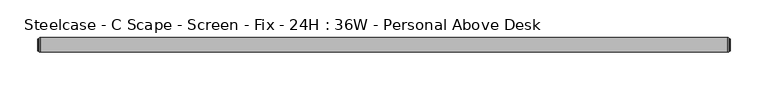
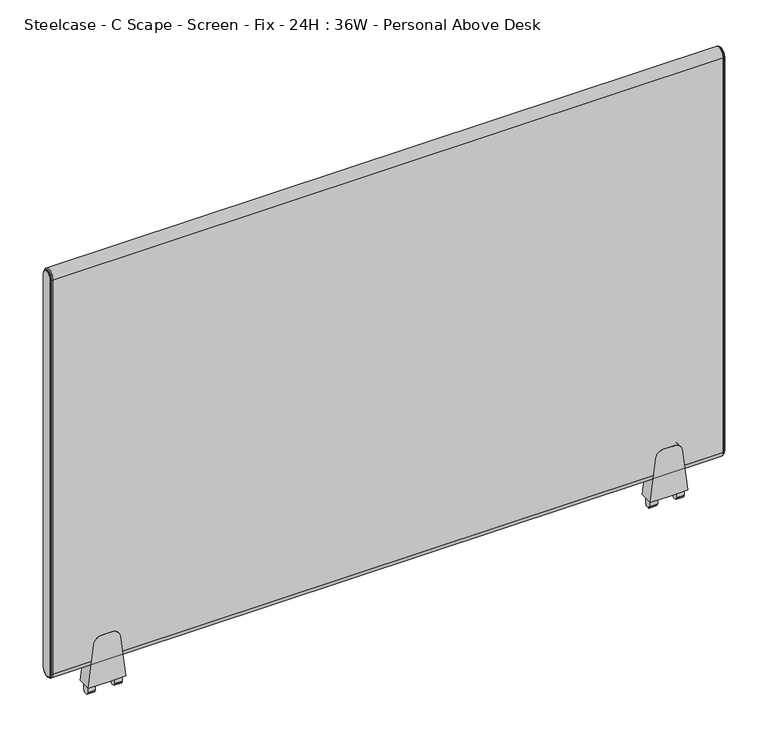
"""IFC4 building model written with IfcOpenShell, lengths in millimetres: furniture geometry, Steelcase - C Scape - Screen - Fix - 24H : 36W - Personal Above Desk."""

from ifc_helpers import new_model, si_unit, point, frame, frame_2d, origin, place, context, project, spatial, polyline, circle_curve, ellipse_curve, trimmed, segment, composite_curve, outline, extrude, source, transform, mapped, element, save
from ifc_brep_helpers import plane_surface, cylinder_surface, revolved_surface, advanced_brep


def steelcase_c_scape_screen_fix_24h_36w_personal_above_desk_8a4edda7(model_context):
    return source(origin(), model_context, "Body", "SolidModel", [
        extrude(outline(composite_curve([segment(polyline([(723.811112, 101.4730434), (784.1362421, 94.0661495)]), True, "CONTINUOUS"), segment(trimmed(circle_curve(frame_2d((782.8143718, 83.300233)), 10.8467645), [point((784.1362421, 94.0661495))], [point((793.6611362, 83.300233))], False, "CARTESIAN"), True, "CONTINUOUS"), segment(polyline([(793.6611362, 83.300233), (793.6611362, 76.2001674), (793.6611362, 69.1001018)]), True, "CONTINUOUS"), segment(trimmed(circle_curve(frame_2d((782.8143718, 69.1001018)), 10.8467645), [point((793.6611362, 69.1001018))], [point((784.1362421, 58.3341853))], False, "CARTESIAN"), True, "CONTINUOUS"), segment(polyline([(784.1362421, 58.3341853), (723.811112, 50.9272915), (723.811112, 76.2001674), (723.811112, 101.4730434)]), True, "CONTINUOUS")], self_intersect=False)), frame((0.0, -9.525, 0.0), z_axis=(0.0, 1.0, 0.0), x_axis=(0.0, 0.0, 1.0)), (0.0, 0.0, 1.0), 19.05),
        extrude(outline(polyline([(4.5465975, 723.811112), (4.5465975, 713.9051033), (4.0139265, 713.0186748), (2.9972008, 713.0186748), (2.9972008, 710.7834188), (0.0, 710.692), (-2.9972008, 710.7834188), (-2.9972008, 713.0186748), (-4.0139265, 713.0186748), (-4.5465975, 713.9051033), (-4.5465975, 723.811112), (0.0, 723.811112), (4.5465975, 723.811112)])), frame((88.9267162, 0.0, 0.0), z_axis=(1.0, 0.0, 0.0), x_axis=(0.0, 1.0, 0.0)), (0.0, 0.0, 1.0), 10.7813187),
        extrude(outline(polyline([(4.5465975, 723.811112), (4.5465975, 713.9051033), (4.0139265, 713.0186748), (2.9972008, 713.0186748), (2.9972008, 710.7834188), (0.0, 710.692), (-2.9972008, 710.7834188), (-2.9972008, 713.0186748), (-4.0139265, 713.0186748), (-4.5465975, 713.9051033), (-4.5465975, 723.811112), (0.0, 723.811112), (4.5465975, 723.811112)])), frame((52.6923, 0.0, 0.0), z_axis=(1.0, 0.0, 0.0), x_axis=(0.0, 1.0, 0.0)), (0.0, 0.0, 1.0), 10.7813187),
        extrude(outline(composite_curve([segment(polyline([(723.811112, 862.7107132), (784.1362421, 855.3038193)]), True, "CONTINUOUS"), segment(trimmed(circle_curve(frame_2d((782.8143718, 844.5379028)), 10.8467645), [point((784.1362421, 855.3038193))], [point((793.6611362, 844.5379028))], False, "CARTESIAN"), True, "CONTINUOUS"), segment(polyline([(793.6611362, 844.5379028), (793.6611362, 837.4378372), (793.6611362, 830.3377716)]), True, "CONTINUOUS"), segment(trimmed(circle_curve(frame_2d((782.8143718, 830.3377716)), 10.8467645), [point((793.6611362, 830.3377716))], [point((784.1362421, 819.5718551))], False, "CARTESIAN"), True, "CONTINUOUS"), segment(polyline([(784.1362421, 819.5718551), (723.811112, 812.1649612), (723.811112, 837.4378372), (723.811112, 862.7107132)]), True, "CONTINUOUS")], self_intersect=False)), frame((0.0, -9.525, 0.0), z_axis=(0.0, 1.0, 0.0), x_axis=(0.0, 0.0, 1.0)), (0.0, 0.0, 1.0), 19.05),
        extrude(outline(polyline([(4.5465975, 723.811112), (4.5465975, 713.9051033), (4.0139265, 713.0186748), (2.9972008, 713.0186748), (2.9972008, 710.7834188), (0.0, 710.692), (-2.9972008, 710.7834188), (-2.9972008, 713.0186748), (-4.0139265, 713.0186748), (-4.5465975, 713.9051033), (-4.5465975, 723.811112), (0.0, 723.811112), (4.5465975, 723.811112)])), frame((850.164386, 0.0, 0.0), z_axis=(1.0, 0.0, 0.0), x_axis=(0.0, 1.0, 0.0)), (0.0, 0.0, 1.0), 10.7813187),
        extrude(outline(polyline([(4.5465975, 723.811112), (4.5465975, 713.9051033), (4.0139265, 713.0186748), (2.9972008, 713.0186748), (2.9972008, 710.7834188), (0.0, 710.692), (-2.9972008, 710.7834188), (-2.9972008, 713.0186748), (-4.0139265, 713.0186748), (-4.5465975, 713.9051033), (-4.5465975, 723.811112), (0.0, 723.811112), (4.5465975, 723.811112)])), frame((813.9299698, 0.0, 0.0), z_axis=(1.0, 0.0, 0.0), x_axis=(0.0, 1.0, 0.0)), (0.0, 0.0, 1.0), 10.7813187),
        advanced_brep(
        [(910.8486613, -9.525, 1326.007), (910.8486613, 9.525, 1326.007), (910.8486613, 9.525, 760.857), (910.8486613, -9.525, 760.857), (913.6426613, 7.4929583, 1326.007), (913.6426613, -7.4929583, 1326.007), (913.6426613, -7.4929583, 760.857), (913.6426613, 7.4929583, 760.857), (913.1346545, -8.0009651, 1326.007), (913.1346545, 8.0009651, 1326.007), (911.8646613, 8.0009651, 1326.007), (911.8646613, -8.0009651, 1326.007), (911.8646613, -8.8204932, 1326.007), (911.8646613, 8.8204932, 1326.007), (911.8646613, -8.0009651, 760.857), (913.1346545, -8.0009651, 760.857), (911.8646613, -8.8204932, 760.857), (911.8646613, 8.0009651, 760.857), (913.1346545, 8.0009651, 760.857), (911.8646613, 8.8204932, 760.857)],
        [
            (0, 1, circle_curve(frame((910.8486613, 0.0, 1326.007), z_axis=(-1.0, 0.0, 0.0), x_axis=(0.0, 1.0, 0.0)), 9.525)),
            (1, 2),
            (2, 3, circle_curve(frame((910.8486613, 0.0, 760.857), z_axis=(-1.0, 0.0, 0.0), x_axis=(0.0, -1.0, 0.0)), 9.525)),
            (3, 0),
            (4, 5, circle_curve(frame((913.6426613, 0.0, 1326.007), z_axis=(1.0, 0.0, 0.0), x_axis=(0.0, 1.0, 0.0)), 7.4929583)),
            (5, 6),
            (6, 7, circle_curve(frame((913.6426613, 0.0, 760.857), z_axis=(1.0, 0.0, 0.0), x_axis=(0.0, -1.0, 0.0)), 7.4929583)),
            (7, 4),
            (8, 9, circle_curve(frame((913.1346545, 0.0, 1326.007), z_axis=(-1.0, 0.0, 0.0), x_axis=(0.0, 1.0, 0.0)), 8.0009651)),
            (9, 10),
            (10, 11, circle_curve(frame((911.8646613, 0.0, 1326.007), z_axis=(1.0, 0.0, 0.0), x_axis=(0.0, 1.0, 0.0)), 8.0009651)),
            (11, 8),
            (8, 5, circle_curve(frame((913.1346545, -7.4929583, 1326.007), z_axis=(0.0, 0.0, 1.0), x_axis=(0.0, -1.0, 0.0)), 0.5080068)),
            (4, 9, circle_curve(frame((913.1346545, 7.4929583, 1326.007), z_axis=(0.0, 0.0, 1.0), x_axis=(0.0, 1.0, 0.0)), 0.5080068)),
            (12, 13, circle_curve(frame((911.8646613, 0.0, 1326.007), z_axis=(-1.0, 0.0, 0.0), x_axis=(0.0, 1.0, 0.0)), 8.8204932)),
            (13, 1, circle_curve(frame((910.7806211, 8.3420139, 1326.007), z_axis=(0.0, 0.0, 1.0), x_axis=(0.0, 1.0, 0.0)), 1.1849411)),
            (0, 12, circle_curve(frame((910.7806211, -8.3420139, 1326.007), z_axis=(0.0, 0.0, 1.0), x_axis=(0.0, -1.0, 0.0)), 1.1849411)),
            (11, 14),
            (14, 15),
            (15, 8),
            (15, 6, circle_curve(frame((913.1346545, -7.4929583, 760.857), z_axis=(0.0, 0.0, 1.0), x_axis=(0.0, -1.0, 0.0)), 0.5080068)),
            (3, 16, circle_curve(frame((910.7806211, -8.3420139, 760.857), z_axis=(0.0, 0.0, 1.0), x_axis=(0.0, -1.0, 0.0)), 1.1849411)),
            (16, 12),
            (14, 17, circle_curve(frame((911.8646613, 0.0, 760.857), z_axis=(1.0, 0.0, 0.0), x_axis=(0.0, -1.0, 0.0)), 8.0009651)),
            (17, 18),
            (18, 15, circle_curve(frame((913.1346545, 0.0, 760.857), z_axis=(-1.0, 0.0, 0.0), x_axis=(0.0, -1.0, 0.0)), 8.0009651)),
            (18, 7, circle_curve(frame((913.1346545, 7.4929583, 760.857), z_axis=(0.0, 0.0, -1.0), x_axis=(0.0, 1.0, 0.0)), 0.5080068)),
            (2, 19, circle_curve(frame((910.7806211, 8.3420139, 760.857), z_axis=(0.0, 0.0, -1.0), x_axis=(0.0, 1.0, 0.0)), 1.1849411)),
            (19, 16, circle_curve(frame((911.8646613, 0.0, 760.857), z_axis=(-1.0, 0.0, 0.0), x_axis=(0.0, -1.0, 0.0)), 8.8204932)),
            (9, 18),
            (17, 10),
            (13, 19),
        ],
        [
            plane_surface(frame((910.8486613, -6.3509705, 1326.007), z_axis=(-1.0, 0.0, 0.0), x_axis=(0.0, 0.0, 1.0))),
            plane_surface(frame((913.6426613, -6.3509705, 1326.007), z_axis=(1.0, 0.0, 0.0), x_axis=(0.0, 0.0, -1.0))),
            cylinder_surface(frame((910.8486613, 0.0, 1326.007), z_axis=(1.0, 0.0, 0.0), x_axis=(0.0, 1.0, 0.0)), 8.0009651),
            revolved_surface(trimmed(ellipse_curve(frame((913.1346545, 7.4929583, 1326.007), z_axis=(0.0, 0.0, -1.0), x_axis=(0.0, 1.0, 0.0)), 0.5080068, 0.5080068), [point((913.1346545, 8.0009651, 1326.007))], [point((913.6426613, 7.4929583, 1326.007))], True, "CARTESIAN"), (910.8486613, 0.0, 1326.007), (1.0, 0.0, 0.0)),
            revolved_surface(trimmed(ellipse_curve(frame((910.7806211, 8.3420139, 1326.007), z_axis=(0.0, 0.0, -1.0), x_axis=(0.0, 1.0, 0.0)), 1.1849411, 1.1849411), [point((910.8486613, 9.525, 1326.007))], [point((911.8646613, 8.8204932, 1326.007))], True, "CARTESIAN"), (910.8486613, 0.0, 1326.007), (1.0, 0.0, 0.0)),
            plane_surface(frame((911.8646613, -8.0009651, 1326.007), z_axis=(0.0, -1.0, 0.0), x_axis=(0.0, 0.0, -1.0))),
            cylinder_surface(frame((913.1346545, -7.4929583, 1326.007), z_axis=(0.0, 0.0, 1.0), x_axis=(0.0, -1.0, 0.0)), 0.5080068),
            cylinder_surface(frame((910.7806211, -8.3420139, 1326.007), z_axis=(0.0, 0.0, 1.0), x_axis=(0.0, -1.0, 0.0)), 1.1849411),
            cylinder_surface(frame((910.8486613, 0.0, 760.857), z_axis=(1.0, 0.0, 0.0), x_axis=(0.0, -1.0, 0.0)), 8.0009651),
            revolved_surface(trimmed(ellipse_curve(frame((913.1346545, -7.4929583, 760.857), z_axis=(0.0, 0.0, 1.0), x_axis=(0.0, -1.0, 0.0)), 0.5080068, 0.5080068), [point((913.1346545, -8.0009651, 760.857))], [point((913.6426613, -7.4929583, 760.857))], True, "CARTESIAN"), (910.8486613, 0.0, 760.857), (1.0, 0.0, 0.0)),
            revolved_surface(trimmed(ellipse_curve(frame((910.7806211, -8.3420139, 760.857), z_axis=(0.0, 0.0, 1.0), x_axis=(0.0, -1.0, 0.0)), 1.1849411, 1.1849411), [point((910.8486613, -9.525, 760.857))], [point((911.8646613, -8.8204932, 760.857))], True, "CARTESIAN"), (910.8486613, 0.0, 760.857), (1.0, 0.0, 0.0)),
            plane_surface(frame((911.8646613, 8.0009651, 760.857), z_axis=(0.0, 1.0, 0.0), x_axis=(0.0, 0.0, 1.0))),
            cylinder_surface(frame((913.1346545, 7.4929583, 760.857), z_axis=(0.0, 0.0, -1.0), x_axis=(0.0, 1.0, 0.0)), 0.5080068),
            cylinder_surface(frame((910.7806211, 8.3420139, 760.857), z_axis=(0.0, 0.0, -1.0), x_axis=(0.0, 1.0, 0.0)), 1.1849411),
            plane_surface(frame((911.8646613, 8.8204932, 760.857), z_axis=(1.0, 0.0, 0.0), x_axis=(0.0, 0.0, 1.0))),
        ],
        [
            (0, [[1, 2, 3, 4]]),
            (1, [[5, 6, 7, 8]]),
            (2, [[9, 10, 11, 12]]),
            (3, [[-9, 13, -5, 14]]),
            (4, [[15, 16, -1, 17]]),
            (5, [[-12, 18, 19, 20]]),
            (6, [[-13, -20, 21, -6]]),
            (7, [[-17, -4, 22, 23]]),
            (8, [[-19, 24, 25, 26]]),
            (9, [[-21, -26, 27, -7]]),
            (10, [[-22, -3, 28, 29]]),
            (11, [[-10, 30, -25, 31]]),
            (12, [[-14, -8, -27, -30]]),
            (13, [[-16, 32, -28, -2]]),
            (14, [[-15, -23, -29, -32], [-11, -31, -24, -18]]),
        ],
    ),
        advanced_brep(
        [(2.7940155, 9.525, 1326.007), (2.7940155, -9.525, 1326.007), (2.7940155, -9.525, 760.857), (2.7940155, 9.525, 760.857), (0.0, -7.4929583, 1326.007), (0.0, 7.4929583, 1326.007), (0.0, 7.4929583, 760.857), (0.0, -7.4929583, 760.857), (1.778, 8.8204932, 1326.007), (1.778, -8.8204932, 1326.007), (0.5080068, -8.0009651, 1326.007), (0.5080068, 8.0009651, 1326.007), (1.778, -8.0009651, 1326.007), (1.778, 8.0009651, 1326.007), (1.778, -8.8204932, 760.857), (0.5080068, -8.0009651, 760.857), (1.778, -8.0009651, 760.857), (1.778, 8.8204932, 760.857), (0.5080068, 8.0009651, 760.857), (1.778, 8.0009651, 760.857)],
        [
            (0, 1, circle_curve(frame((2.7940155, 0.0, 1326.007), z_axis=(1.0, 0.0, 0.0), x_axis=(0.0, 1.0, 0.0)), 9.525)),
            (1, 2),
            (2, 3, circle_curve(frame((2.7940155, 0.0, 760.857), z_axis=(1.0, 0.0, 0.0), x_axis=(0.0, -1.0, 0.0)), 9.525)),
            (3, 0),
            (4, 5, circle_curve(frame((0.0, 0.0, 1326.007), z_axis=(-1.0, 0.0, 0.0), x_axis=(0.0, 1.0, 0.0)), 7.4929583)),
            (5, 6),
            (6, 7, circle_curve(frame((0.0, 0.0, 760.857), z_axis=(-1.0, 0.0, 0.0), x_axis=(0.0, -1.0, 0.0)), 7.4929583)),
            (7, 4),
            (0, 8, circle_curve(frame((2.8620402, 8.3420139, 1326.007), z_axis=(0.0, 0.0, 1.0), x_axis=(0.0, -1.0, 0.0)), 1.1849411)),
            (8, 9, circle_curve(frame((1.778, 0.0, 1326.007), z_axis=(1.0, 0.0, 0.0), x_axis=(0.0, 1.0, 0.0)), 8.8204932)),
            (9, 1, circle_curve(frame((2.8620402, -8.3420139, 1326.007), z_axis=(0.0, 0.0, 1.0), x_axis=(0.0, 1.0, 0.0)), 1.1849411)),
            (10, 11, circle_curve(frame((0.5080068, 0.0, 1326.007), z_axis=(-1.0, 0.0, 0.0), x_axis=(0.0, 1.0, 0.0)), 8.0009651)),
            (11, 5, circle_curve(frame((0.5080068, 7.4929583, 1326.007), z_axis=(0.0, 0.0, 1.0), x_axis=(0.0, -1.0, 0.0)), 0.5080068)),
            (4, 10, circle_curve(frame((0.5080068, -7.4929583, 1326.007), z_axis=(0.0, 0.0, 1.0), x_axis=(0.0, 1.0, 0.0)), 0.5080068)),
            (10, 12),
            (12, 13, circle_curve(frame((1.778, 0.0, 1326.007), z_axis=(-1.0, 0.0, 0.0), x_axis=(0.0, 1.0, 0.0)), 8.0009651)),
            (13, 11),
            (9, 14),
            (14, 2, circle_curve(frame((2.8620402, -8.3420139, 760.857), z_axis=(0.0, 0.0, 1.0), x_axis=(0.0, 1.0, 0.0)), 1.1849411)),
            (7, 15, circle_curve(frame((0.5080068, -7.4929583, 760.857), z_axis=(0.0, 0.0, 1.0), x_axis=(0.0, 1.0, 0.0)), 0.5080068)),
            (15, 10),
            (15, 16),
            (16, 12),
            (14, 17, circle_curve(frame((1.778, 0.0, 760.857), z_axis=(1.0, 0.0, 0.0), x_axis=(0.0, -1.0, 0.0)), 8.8204932)),
            (17, 3, circle_curve(frame((2.8620402, 8.3420139, 760.857), z_axis=(0.0, 0.0, -1.0), x_axis=(0.0, -1.0, 0.0)), 1.1849411)),
            (6, 18, circle_curve(frame((0.5080068, 7.4929583, 760.857), z_axis=(0.0, 0.0, -1.0), x_axis=(0.0, -1.0, 0.0)), 0.5080068)),
            (18, 15, circle_curve(frame((0.5080068, 0.0, 760.857), z_axis=(-1.0, 0.0, 0.0), x_axis=(0.0, -1.0, 0.0)), 8.0009651)),
            (18, 19),
            (19, 16, circle_curve(frame((1.778, 0.0, 760.857), z_axis=(-1.0, 0.0, 0.0), x_axis=(0.0, -1.0, 0.0)), 8.0009651)),
            (8, 17),
            (19, 13),
            (11, 18),
        ],
        [
            plane_surface(frame((2.7940155, -6.3509705, 1326.007), z_axis=(1.0, 0.0, 0.0), x_axis=(0.0, 0.0, -1.0))),
            plane_surface(frame((0.0, -6.3509705, 1326.007), z_axis=(-1.0, 0.0, 0.0), x_axis=(0.0, 0.0, 1.0))),
            revolved_surface(trimmed(ellipse_curve(frame((2.8620402, 8.3420139, 1326.007), z_axis=(0.0, 0.0, -1.0), x_axis=(0.0, -1.0, 0.0)), 1.1849411, 1.1849411), [point((1.778, 8.8204932, 1326.007))], [point((2.794, 9.525, 1326.007))], True, "CARTESIAN"), (2.794, 0.0, 1326.007), (1.0, 0.0, 0.0)),
            revolved_surface(trimmed(ellipse_curve(frame((0.5080068, 7.4929583, 1326.007), z_axis=(0.0, 0.0, -1.0), x_axis=(0.0, -1.0, 0.0)), 0.5080068, 0.5080068), [point((0.0, 7.4929583, 1326.007))], [point((0.5080068, 8.0009651, 1326.007))], True, "CARTESIAN"), (2.794, 0.0, 1326.007), (1.0, 0.0, 0.0)),
            cylinder_surface(frame((2.794, 0.0, 1326.007), z_axis=(1.0, 0.0, 0.0), x_axis=(0.0, 1.0, 0.0)), 8.0009651),
            cylinder_surface(frame((2.8620402, -8.3420139, 1326.007), z_axis=(0.0, 0.0, 1.0), x_axis=(0.0, 1.0, 0.0)), 1.1849411),
            cylinder_surface(frame((0.5080068, -7.4929583, 1326.007), z_axis=(0.0, 0.0, 1.0), x_axis=(0.0, 1.0, 0.0)), 0.5080068),
            plane_surface(frame((0.5080068, -8.0009651, 1326.007), z_axis=(0.0, -1.0, 0.0), x_axis=(0.0, 0.0, -1.0))),
            revolved_surface(trimmed(ellipse_curve(frame((2.8620402, -8.3420139, 760.857), z_axis=(0.0, 0.0, 1.0), x_axis=(0.0, 1.0, 0.0)), 1.1849411, 1.1849411), [point((1.778, -8.8204932, 760.857))], [point((2.794, -9.525, 760.857))], True, "CARTESIAN"), (2.794, 0.0, 760.857), (1.0, 0.0, 0.0)),
            revolved_surface(trimmed(ellipse_curve(frame((0.5080068, -7.4929583, 760.857), z_axis=(0.0, 0.0, 1.0), x_axis=(0.0, 1.0, 0.0)), 0.5080068, 0.5080068), [point((0.0, -7.4929583, 760.857))], [point((0.5080068, -8.0009651, 760.857))], True, "CARTESIAN"), (2.794, 0.0, 760.857), (1.0, 0.0, 0.0)),
            cylinder_surface(frame((2.794, 0.0, 760.857), z_axis=(1.0, 0.0, 0.0), x_axis=(0.0, -1.0, 0.0)), 8.0009651),
            plane_surface(frame((1.778, 8.0009651, 760.857), z_axis=(-1.0, 0.0, 0.0), x_axis=(0.0, 0.0, 1.0))),
            cylinder_surface(frame((2.8620402, 8.3420139, 760.857), z_axis=(0.0, 0.0, -1.0), x_axis=(0.0, -1.0, 0.0)), 1.1849411),
            cylinder_surface(frame((0.5080068, 7.4929583, 760.857), z_axis=(0.0, 0.0, -1.0), x_axis=(0.0, -1.0, 0.0)), 0.5080068),
            plane_surface(frame((0.5080068, 8.0009651, 760.857), z_axis=(0.0, 1.0, 0.0), x_axis=(0.0, 0.0, 1.0))),
        ],
        [
            (0, [[1, 2, 3, 4]]),
            (1, [[5, 6, 7, 8]]),
            (2, [[-1, 9, 10, 11]]),
            (3, [[12, 13, -5, 14]]),
            (4, [[-12, 15, 16, 17]]),
            (5, [[-11, 18, 19, -2]]),
            (6, [[-14, -8, 20, 21]]),
            (7, [[-15, -21, 22, 23]]),
            (8, [[-19, 24, 25, -3]]),
            (9, [[-20, -7, 26, 27]]),
            (10, [[-22, -27, 28, 29]]),
            (11, [[-10, 30, -24, -18], [-16, -23, -29, 31]]),
            (12, [[-9, -4, -25, -30]]),
            (13, [[-13, 32, -26, -6]]),
            (14, [[-17, -31, -28, -32]]),
        ],
    ),
        extrude(outline(composite_curve([segment(trimmed(circle_curve(frame_2d((0.0, 1326.007)), 9.525), [point((-9.525, 1326.007))], [point((9.525, 1326.007))], False, "CARTESIAN"), True, "CONTINUOUS"), segment(polyline([(9.525, 1326.007), (9.525, 760.857)]), True, "CONTINUOUS"), segment(trimmed(circle_curve(frame_2d((0.0, 760.857)), 9.525), [point((9.525, 760.857))], [point((-9.525, 760.857))], False, "CARTESIAN"), True, "CONTINUOUS"), segment(polyline([(-9.525, 760.857), (-9.525, 1326.007)]), True, "CONTINUOUS")], self_intersect=False)), frame((2.794, 0.0, 0.0), z_axis=(1.0, 0.0, 0.0), x_axis=(0.0, 1.0, 0.0)), (0.0, 0.0, 1.0), 908.0546613),
    ])


if __name__ == "__main__":
    model = new_model("IFC4")
    model_context = context("Model", 3, world=origin())
    ifc_project = project(units=[si_unit("LENGTHUNIT", "METRE", prefix="MILLI")], contexts=[model_context])
    site = spatial("IfcSite", under=ifc_project)
    building = spatial("IfcBuilding", under=site)
    placement = place(None, origin())
    steelcase_c_scape_screen_fix_24h_36w_personal_above_desk_shape = steelcase_c_scape_screen_fix_24h_36w_personal_above_desk_8a4edda7(model_context)
    element("IfcFurniture", 1, ObjectType="Steelcase - C Scape - Screen - Fix - 24H : 36W - Personal Above Desk", at=placement, inside=building, context=model_context, shape_type="MappedRepresentation", body=[
        mapped(steelcase_c_scape_screen_fix_24h_36w_personal_above_desk_shape, transform((0.0, 0.0, 0.0), x_axis=(1.0, 0.0, 0.0), y_axis=(0.0, 1.0, 0.0), z_axis=(0.0, 0.0, 1.0))),
    ])
    save(model, "model.ifc")
